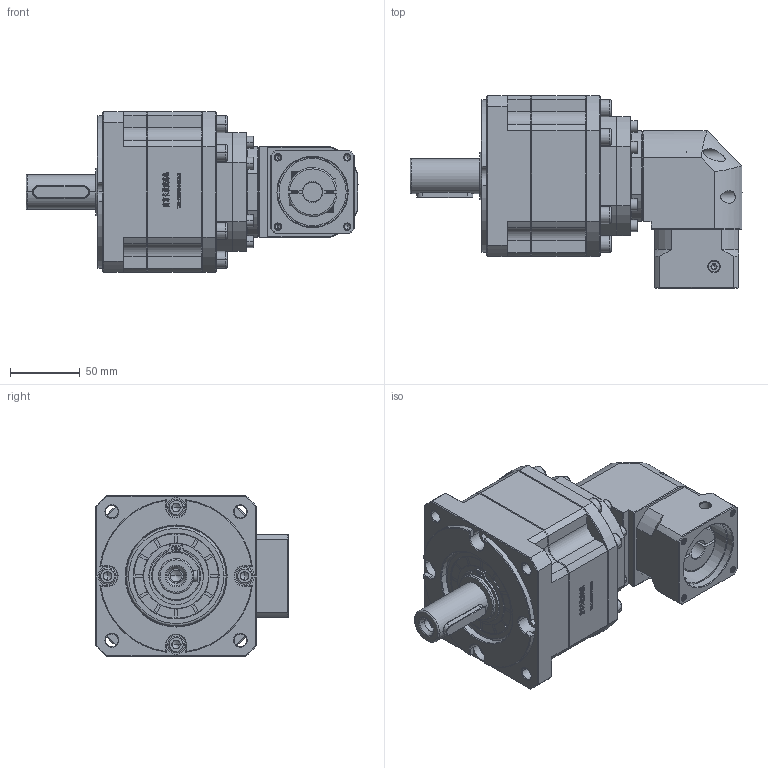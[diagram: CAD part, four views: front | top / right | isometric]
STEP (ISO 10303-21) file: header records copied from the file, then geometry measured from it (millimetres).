
FILE_DESCRIPTION (( 'STEP AP214' ), '1' );
FILE_NAME ('ZB115A-D25-L3-14-50-70-M5.step', '2023-03-03T08:02:20', ( '' ), ( 'Microsoft' ), 'SwSTEP 2.0', 'SolidWorks 2016', '' );
FILE_SCHEMA (( 'AUTOMOTIVE_DESIGN' ));
Length unit declared in the file: millimetre
Products named in the file (1): ZB115A-D25-L3-14-50-70-M5
Bounding box: 237.5 x 137.7 x 115 mm (x, y, z)
Volume: 1550807.1 mm3; surface area: 145009.6 mm2
Topology: 6 solids, 6 shells, 3238 faces, 8600 edges, 5524 vertices
Faces by surface type: plane 1719, bspline 637, cylinder 485, cone 389, torus 8
Entity records: 170595 total; most frequent: CARTESIAN_POINT 59430, ORIENTED_EDGE 17076, DIRECTION 13268, EDGE_CURVE 8538, VECTOR 5680, LINE 5680, VERTEX_POINT 5524, AXIS2_PLACEMENT_3D 3794
